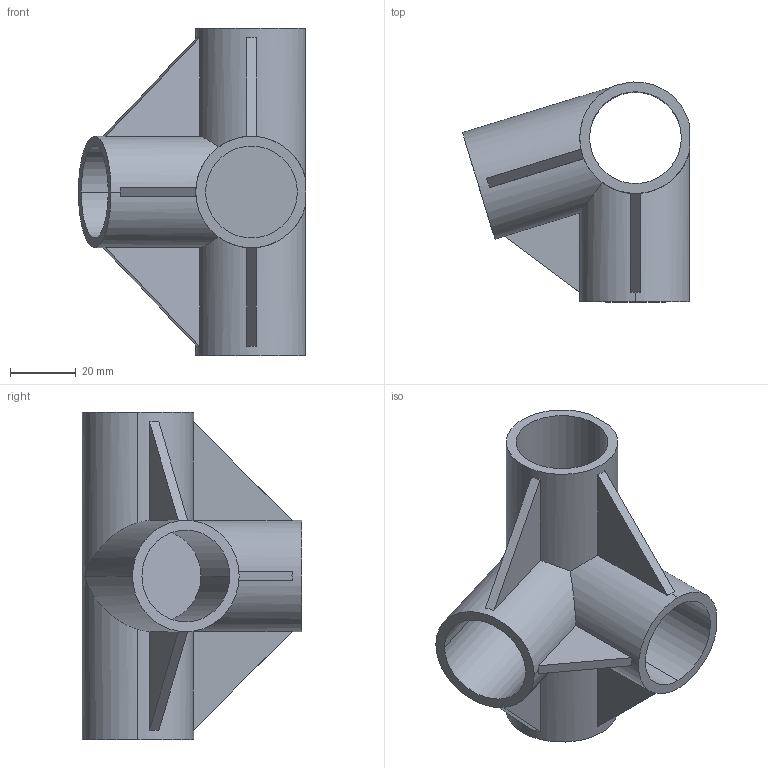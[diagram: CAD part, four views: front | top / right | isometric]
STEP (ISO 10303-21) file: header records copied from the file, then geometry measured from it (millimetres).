
FILE_DESCRIPTION (( 'STEP AP214' ), '1' );
FILE_NAME ('PJ-407B.STEP', '2023-09-12T11:12:11', ( 'catia' ), ( 'HP Inc.' ), 'SwSTEP 2.0', 'SolidWorks 2021', '' );
FILE_SCHEMA (( 'AUTOMOTIVE_DESIGN' ));
Length unit declared in the file: millimetre
Products named in the file (1): PJ-407B
Bounding box: 69.29 x 66.99 x 100 mm (x, y, z)
Volume: 60898.2 mm3; surface area: 36793.9 mm2
Topology: 1 solids, 1 shells, 36 faces, 96 edges, 64 vertices
Faces by surface type: plane 22, cylinder 14
Entity records: 1159 total; most frequent: CARTESIAN_POINT 272, ORIENTED_EDGE 192, DIRECTION 166, EDGE_CURVE 96, VERTEX_POINT 64, AXIS2_PLACEMENT_3D 58, VECTOR 50, LINE 50
